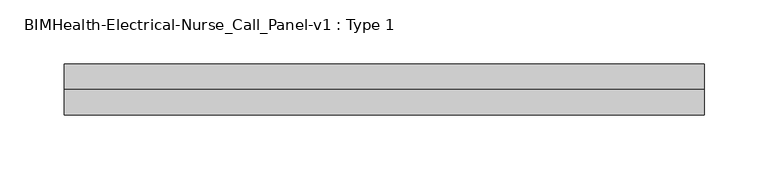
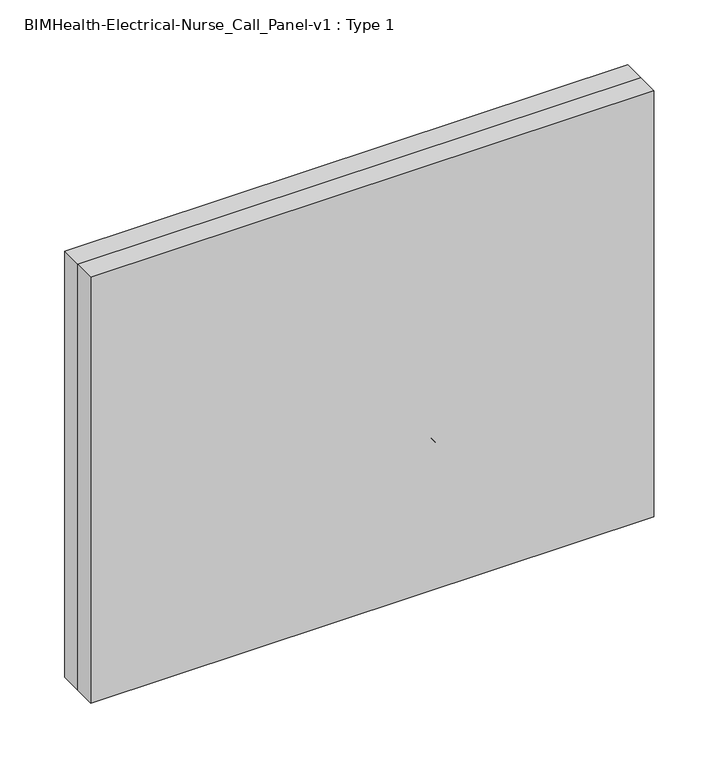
"""IFC4 building model written with IfcOpenShell, lengths in millimetres: proxy geometry, BIMHealth-Electrical-Nurse_Call_Panel-v1 : Type 1."""

from ifc_helpers import new_model, si_unit, point, frame, frame_2d, origin, place, context, project, spatial, polyline, circle_curve, trimmed, segment, composite_curve, outline, extrude, source, transform, mapped, element, save


def bimhealth_electrical_nurse_call_panel_v1_type_1_87daaa80(model_context):
    return source(origin(), model_context, "Body", "SweptSolid", [
        extrude(outline(polyline([(1652.3377083, 282.9611708), (1676.9530929, 282.9611708), (1676.9530929, 279.6679015), (1657.451891, 266.8073246), (1676.9530929, 266.8073246), (1676.9530929, 263.7304015), (1652.3377083, 263.7304015), (1652.3377083, 267.0236708), (1671.8449199, 279.8842477), (1652.3377083, 279.8842477), (1652.3377083, 282.9611708)])), frame((0.0, 105.0, 0.0), z_axis=(0.0, 1.0, 0.0), x_axis=(0.0, 0.0, 1.0)), (0.0, 0.0, 1.0), 5.0),
        extrude(outline(polyline([(1652.3377083, 247.19194), (1655.4446795, 247.19194), (1651.9530929, 252.7448246), (1652.5660737, 255.6384544), (1654.1045352, 257.6336467), (1656.3701602, 258.5501131), (1659.2307372, 258.7304015), (1670.4146314, 258.7304015), (1670.4146314, 255.6534785), (1660.6790545, 255.6534785), (1657.5420352, 255.4671804), (1655.7000881, 254.2502333), (1655.030016, 251.957565), (1655.7151122, 249.3884544), (1657.5810977, 247.6907381), (1661.0095833, 247.19194), (1670.4146314, 247.19194), (1670.4146314, 244.1150169), (1652.3377083, 244.1150169), (1652.3377083, 247.19194)])), frame((0.0, 105.0, 0.0), z_axis=(0.0, 1.0, 0.0), x_axis=(0.0, 0.0, 1.0)), (0.0, 0.0, 1.0), 5.0),
        extrude(outline(polyline([(1652.3377083, 239.8842477), (1670.4146314, 239.8842477), (1670.4146314, 237.19194), (1667.7403526, 237.19194), (1670.2042949, 235.2808823), (1670.7992468, 233.3578054), (1669.8497276, 230.2688631), (1667.0913141, 231.2965073), (1667.7223237, 233.4599689), (1667.1153526, 235.1997525), (1665.4326602, 236.3085265), (1661.8389102, 236.8073246), (1652.3377083, 236.8073246), (1652.3377083, 239.8842477)])), frame((0.0, 105.0, 0.0), z_axis=(0.0, 1.0, 0.0), x_axis=(0.0, 0.0, 1.0)), (0.0, 0.0, 1.0), 5.0),
        extrude(outline(polyline([(1657.7223237, 229.4996323), (1658.1069391, 226.4227092), (1655.8232852, 224.9984304), (1655.030016, 221.7352092), (1655.7571795, 218.59819), (1657.4639102, 217.5765554), (1658.8461218, 218.6041996), (1659.7235256, 221.7712669), (1661.2289343, 226.4046804), (1662.9867468, 228.426916), (1665.4687179, 229.1150169), (1667.7613862, 228.5621323), (1669.5131891, 227.0537189), (1670.4236458, 225.097589), (1670.7992468, 222.4503535), (1670.1952804, 218.7063631), (1668.5606651, 216.3265554), (1665.7992468, 215.2688631), (1665.4146314, 218.3457862), (1667.1123477, 219.5026371), (1667.7223237, 222.2099689), (1667.139391, 225.1546804), (1665.7812179, 226.0380939), (1663.5516506, 221.8734304), (1662.1033333, 217.3572044), (1660.4627083, 215.2598487), (1657.7884295, 214.4996323), (1654.8437179, 215.3920602), (1652.7072997, 217.9671804), (1651.9530929, 221.7772765), (1653.4074199, 227.1438631), (1657.7223237, 229.4996323)])), frame((0.0, 105.0, 0.0), z_axis=(0.0, 1.0, 0.0), x_axis=(0.0, 0.0, 1.0)), (0.0, 0.0, 1.0), 5.0),
        extrude(outline(polyline([(1657.7223237, 198.3818439), (1657.3377083, 195.3650169), (1653.3653526, 198.1865314), (1651.9530929, 203.44194), (1654.389992, 209.8301612), (1661.2259295, 212.19194), (1668.2872276, 209.8061227), (1670.7992468, 203.6162189), (1668.2932372, 197.6035987), (1661.2439583, 195.2688631), (1660.4146314, 209.1150169), (1656.4182372, 207.3451852), (1655.030016, 203.3818439), (1655.6730449, 200.3650169), (1657.7223237, 198.3818439)]), holes=[polyline([(1663.4915545, 209.1150169), (1663.4915545, 198.3457862), (1666.280016, 199.5777573), (1667.7223237, 203.6282381), (1666.5714824, 207.4173006), (1663.4915545, 209.1150169)])]), frame((0.0, 105.0, 0.0), z_axis=(0.0, 1.0, 0.0), x_axis=(0.0, 0.0, 1.0)), (0.0, 0.0, 1.0), 5.0),
        extrude(outline(polyline([(1630.7030929, 265.6534785), (1629.9098237, 262.5765554), (1623.7048958, 266.2243919), (1621.5684776, 272.6666996), (1623.1850641, 279.0699448), (1627.8665545, 282.8259544), (1634.4470833, 284.1150169), (1641.1357852, 282.6576852), (1645.4717227, 278.5140554), (1646.9530929, 272.6005939), (1645.0360256, 266.4377333), (1639.639391, 262.9611708), (1638.9062179, 266.0380939), (1642.6892708, 268.5621323), (1643.8761699, 272.7207862), (1642.5600641, 277.5344881), (1639.0264102, 280.253839), (1634.4530929, 281.0380939), (1629.1526122, 280.1096083), (1625.7661939, 277.2189833), (1624.6454006, 272.97319), (1626.1718429, 268.2646564), (1630.7030929, 265.6534785)])), frame((0.0, 105.0, 0.0), z_axis=(0.0, 1.0, 0.0), x_axis=(0.0, 0.0, 1.0)), (0.0, 0.0, 1.0), 5.0),
        extrude(outline(polyline([(1624.2607852, 247.19194), (1622.1754487, 250.175714), (1621.5684776, 253.4719881), (1623.0288141, 257.9401371), (1626.7607852, 259.4996323), (1629.1946795, 258.91069), (1630.9615064, 257.363214), (1631.9711218, 255.2087669), (1632.4338622, 252.5465073), (1633.4915545, 247.2099689), (1636.4482852, 248.0392958), (1637.3377083, 251.4407381), (1636.7457612, 254.5537189), (1634.6454006, 256.0380939), (1635.030016, 259.1150169), (1638.0348237, 257.7838871), (1639.795641, 255.1035987), (1640.4146314, 251.0441035), (1639.8677564, 247.3151371), (1638.4945593, 245.2087669), (1636.4062179, 244.2652573), (1633.7139102, 244.1150169), (1629.8857852, 244.1150169), (1624.5402324, 243.9587669), (1621.9530929, 243.3457862), (1621.9530929, 246.4227092), (1624.2607852, 247.19194)]), holes=[polyline([(1629.9789343, 247.2009544), (1629.4711218, 252.1558823), (1628.9723237, 254.8031179), (1625.3124679, 255.5062429), (1624.6454006, 252.81694), (1625.3815785, 249.7039592), (1627.1634295, 247.6967477), (1629.9789343, 247.2009544)])]), frame((0.0, 105.0, 0.0), z_axis=(0.0, 1.0, 0.0), x_axis=(0.0, 0.0, 1.0)), (0.0, 0.0, 1.0), 5.0),
        extrude(outline(polyline([(236.8073246, 110.0), (239.8842477, 110.0), (239.8842477, 105.0), (236.8073246, 105.0), (236.8073246, 110.0)])), frame((0.0, 0.0, 1621.9530929), z_axis=(0.0, 0.0, 1.0), x_axis=(1.0, 0.0, 0.0)), (0.0, 0.0, 1.0), 24.6153846),
        extrude(outline(polyline([(229.1150169, 110.0), (232.19194, 110.0), (232.19194, 105.0), (229.1150169, 105.0), (229.1150169, 110.0)])), frame((0.0, 0.0, 1621.9530929), z_axis=(0.0, 0.0, 1.0), x_axis=(1.0, 0.0, 0.0)), (0.0, 0.0, 1.0), 24.6153846),
        extrude(outline(polyline([(1591.5684776, 282.9611708), (1616.1838622, 282.9611708), (1616.1838622, 273.8385746), (1615.9494872, 270.16069), (1614.7986458, 267.1709064), (1612.4188381, 265.2328054), (1609.0624679, 264.4996323), (1603.7439583, 266.4798006), (1601.5684776, 273.6282381), (1601.5684776, 279.8842477), (1591.5684776, 279.8842477), (1591.5684776, 282.9611708)]), holes=[polyline([(1604.6454006, 279.8842477), (1604.6454006, 273.4479496), (1605.7752083, 268.9166996), (1608.9542949, 267.5765554), (1611.5023718, 268.3668198), (1612.8966026, 270.4431419), (1613.1069391, 273.520065), (1613.1069391, 279.8842477), (1604.6454006, 279.8842477)])]), frame((0.0, 105.0, 0.0), z_axis=(0.0, 1.0, 0.0), x_axis=(0.0, 0.0, 1.0)), (0.0, 0.0, 1.0), 5.0),
        extrude(outline(polyline([(1600.6069391, 261.4227092), (1608.0288141, 258.7604496), (1610.030016, 253.3397765), (1607.593117, 247.5254737), (1600.8593429, 245.2688631), (1595.3845833, 246.2664592), (1592.2866266, 249.1721083), (1591.1838622, 253.3397765), (1593.6117468, 259.1901371), (1600.6069391, 261.4227092)]), holes=[polyline([(1600.6129487, 258.3457862), (1595.8443189, 256.9215073), (1594.2607852, 253.3397765), (1595.8533333, 249.770065), (1600.7091026, 248.3457862), (1605.3695593, 249.7790794), (1606.9530929, 253.3397765), (1605.3755689, 256.9215073), (1600.6129487, 258.3457862)])]), frame((0.0, 105.0, 0.0), z_axis=(0.0, 1.0, 0.0), x_axis=(0.0, 0.0, 1.0)), (0.0, 0.0, 1.0), 5.0),
        extrude(outline(polyline([(238.7304015, 110.0), (241.8073246, 110.0), (241.8073246, 105.0), (238.7304015, 105.0), (238.7304015, 110.0)])), frame((0.0, 0.0, 1613.1069391), z_axis=(0.0, 0.0, 1.0), x_axis=(1.0, 0.0, 0.0)), (0.0, 0.0, 1.0), 3.0769231),
        extrude(outline(polyline([(238.7304015, 110.0), (241.8073246, 110.0), (241.8073246, 105.0), (238.7304015, 105.0), (238.7304015, 110.0)])), frame((0.0, 0.0, 1591.5684776), z_axis=(0.0, 0.0, 1.0), x_axis=(1.0, 0.0, 0.0)), (0.0, 0.0, 1.0), 18.0769231),
        extrude(outline(polyline([(1591.5684776, 234.1150169), (1609.6454006, 234.1150169), (1609.6454006, 231.0380939), (1607.1213622, 231.0380939), (1610.030016, 225.47319), (1609.4440785, 222.567541), (1607.905617, 220.5843679), (1605.6429968, 219.6618919), (1602.6682372, 219.4996323), (1591.5684776, 219.4996323), (1591.5684776, 222.5765554), (1602.2535737, 222.5765554), (1604.9759295, 222.9311227), (1606.4152324, 224.1841275), (1606.9530929, 226.2965073), (1605.7451602, 229.6348487), (1601.1598237, 231.0380939), (1591.5684776, 231.0380939), (1591.5684776, 234.1150169)])), frame((0.0, 105.0, 0.0), z_axis=(0.0, 1.0, 0.0), x_axis=(0.0, 0.0, 1.0)), (0.0, 0.0, 1.0), 5.0),
        extrude(outline(polyline([(1594.5822997, 210.1877333), (1591.4783333, 208.3457862), (1591.1838622, 210.6474689), (1591.6946795, 213.2255939), (1593.0348237, 214.5116515), (1596.5264102, 214.8842477), (1606.5684776, 214.8842477), (1606.5684776, 217.19194), (1609.6454006, 217.19194), (1609.6454006, 214.8842477), (1614.0384295, 214.8842477), (1615.8473237, 211.8073246), (1609.6454006, 211.8073246), (1609.6454006, 208.7304015), (1606.5684776, 208.7304015), (1606.5684776, 211.8073246), (1596.6165545, 211.8073246), (1594.5822997, 210.1877333)])), frame((0.0, 105.0, 0.0), z_axis=(0.0, 1.0, 0.0), x_axis=(0.0, 0.0, 1.0)), (0.0, 0.0, 1.0), 5.0),
        extrude(outline(polyline([(266.8290754, 105.0), (240.6709246, 105.0), (240.6709246, 110.0), (266.8290754, 110.0), (266.8290754, 105.0)])), frame((0.0, 0.0, 1846.4197312), z_axis=(0.0, 0.0, 1.0), x_axis=(1.0, 0.0, 0.0)), (0.0, 0.0, 1.0), 2.0401344),
        extrude(outline(polyline([(298.7040754, 105.0), (272.5459246, 105.0), (272.5459246, 110.0), (298.7040754, 110.0), (298.7040754, 105.0)])), frame((0.0, 0.0, 1846.4197312), z_axis=(0.0, 0.0, 1.0), x_axis=(1.0, 0.0, 0.0)), (0.0, 0.0, 1.0), 2.0401344),
        extrude(outline(polyline([(248.0331509, 105.0), (221.875, 105.0), (221.875, 110.0), (248.0331509, 110.0), (248.0331509, 105.0)])), frame((0.0, 0.0, 1860.4598656), z_axis=(0.0, 0.0, 1.0), x_axis=(1.0, 0.0, 0.0)), (0.0, 0.0, 1.0), 2.0401344),
        extrude(outline(polyline([(279.9081509, 105.0), (253.75, 105.0), (253.75, 110.0), (279.9081509, 110.0), (279.9081509, 105.0)])), frame((0.0, 0.0, 1860.4598656), z_axis=(0.0, 0.0, 1.0), x_axis=(1.0, 0.0, 0.0)), (0.0, 0.0, 1.0), 2.0401344),
        extrude(outline(polyline([(311.7831509, 105.0), (285.625, 105.0), (285.625, 110.0), (311.7831509, 110.0), (311.7831509, 105.0)])), frame((0.0, 0.0, 1860.4598656), z_axis=(0.0, 0.0, 1.0), x_axis=(1.0, 0.0, 0.0)), (0.0, 0.0, 1.0), 2.0401344),
        extrude(outline(polyline([(266.8290754, 105.0), (240.6709246, 105.0), (240.6709246, 110.0), (266.8290754, 110.0), (266.8290754, 105.0)])), frame((0.0, 0.0, 1874.5), z_axis=(0.0, 0.0, 1.0), x_axis=(1.0, 0.0, 0.0)), (0.0, 0.0, 1.0), 2.0401344),
        extrude(outline(polyline([(298.7040754, 105.0), (272.5459246, 105.0), (272.5459246, 110.0), (298.7040754, 110.0), (298.7040754, 105.0)])), frame((0.0, 0.0, 1874.5), z_axis=(0.0, 0.0, 1.0), x_axis=(1.0, 0.0, 0.0)), (0.0, 0.0, 1.0), 2.0401344),
        extrude(outline(polyline([(197.5, 105.0), (167.8604921, 105.0), (167.8604921, 110.0), (197.5, 110.0), (197.5, 105.0)])), frame((0.0, 0.0, 1850.0), z_axis=(0.0, 0.0, 1.0), x_axis=(1.0, 0.0, 0.0)), (0.0, 0.0, 1.0), 25.0),
        extrude(outline(composite_curve([segment(trimmed(circle_curve(frame_2d((1612.5, 50.0)), 5.0), [point((1612.5, 45.0))], [point((1612.5, 55.0))], False, "CARTESIAN"), True, "CONTINUOUS"), segment(trimmed(circle_curve(frame_2d((1612.5, 50.0)), 5.0), [point((1612.5, 55.0))], [point((1612.5, 45.0))], False, "CARTESIAN"), True, "CONTINUOUS")], self_intersect=False)), frame((0.0, 105.0, 0.0), z_axis=(0.0, 1.0, 0.0), x_axis=(0.0, 0.0, 1.0)), (0.0, 0.0, 1.0), 2.5),
        extrude(outline(composite_curve([segment(trimmed(circle_curve(frame_2d((1642.5, 50.0)), 5.0), [point((1642.5, 45.0))], [point((1642.5, 55.0))], False, "CARTESIAN"), True, "CONTINUOUS"), segment(trimmed(circle_curve(frame_2d((1642.5, 50.0)), 5.0), [point((1642.5, 55.0))], [point((1642.5, 45.0))], False, "CARTESIAN"), True, "CONTINUOUS")], self_intersect=False)), frame((0.0, 105.0, 0.0), z_axis=(0.0, 1.0, 0.0), x_axis=(0.0, 0.0, 1.0)), (0.0, 0.0, 1.0), 2.5),
        extrude(outline(composite_curve([segment(trimmed(circle_curve(frame_2d((1672.5, 50.0)), 5.0), [point((1672.5, 45.0))], [point((1672.5, 55.0))], False, "CARTESIAN"), True, "CONTINUOUS"), segment(trimmed(circle_curve(frame_2d((1672.5, 50.0)), 5.0), [point((1672.5, 55.0))], [point((1672.5, 45.0))], False, "CARTESIAN"), True, "CONTINUOUS")], self_intersect=False)), frame((0.0, 105.0, 0.0), z_axis=(0.0, 1.0, 0.0), x_axis=(0.0, 0.0, 1.0)), (0.0, 0.0, 1.0), 2.5),
        extrude(outline(composite_curve([segment(trimmed(circle_curve(frame_2d((1702.5, 50.0)), 5.0), [point((1702.5, 45.0))], [point((1702.5, 55.0))], False, "CARTESIAN"), True, "CONTINUOUS"), segment(trimmed(circle_curve(frame_2d((1702.5, 50.0)), 5.0), [point((1702.5, 55.0))], [point((1702.5, 45.0))], False, "CARTESIAN"), True, "CONTINUOUS")], self_intersect=False)), frame((0.0, 105.0, 0.0), z_axis=(0.0, 1.0, 0.0), x_axis=(0.0, 0.0, 1.0)), (0.0, 0.0, 1.0), 2.5),
        extrude(outline(composite_curve([segment(trimmed(circle_curve(frame_2d((1732.5, 50.0)), 5.0), [point((1732.5, 45.0))], [point((1732.5, 55.0))], False, "CARTESIAN"), True, "CONTINUOUS"), segment(trimmed(circle_curve(frame_2d((1732.5, 50.0)), 5.0), [point((1732.5, 55.0))], [point((1732.5, 45.0))], False, "CARTESIAN"), True, "CONTINUOUS")], self_intersect=False)), frame((0.0, 105.0, 0.0), z_axis=(0.0, 1.0, 0.0), x_axis=(0.0, 0.0, 1.0)), (0.0, 0.0, 1.0), 2.5),
        extrude(outline(composite_curve([segment(trimmed(circle_curve(frame_2d((1762.5, 50.0)), 5.0), [point((1762.5, 45.0))], [point((1762.5, 55.0))], False, "CARTESIAN"), True, "CONTINUOUS"), segment(trimmed(circle_curve(frame_2d((1762.5, 50.0)), 5.0), [point((1762.5, 55.0))], [point((1762.5, 45.0))], False, "CARTESIAN"), True, "CONTINUOUS")], self_intersect=False)), frame((0.0, 105.0, 0.0), z_axis=(0.0, 1.0, 0.0), x_axis=(0.0, 0.0, 1.0)), (0.0, 0.0, 1.0), 2.5),
        extrude(outline(composite_curve([segment(trimmed(circle_curve(frame_2d((1792.5, 50.0)), 5.0), [point((1792.5, 45.0))], [point((1792.5, 55.0))], False, "CARTESIAN"), True, "CONTINUOUS"), segment(trimmed(circle_curve(frame_2d((1792.5, 50.0)), 5.0), [point((1792.5, 55.0))], [point((1792.5, 45.0))], False, "CARTESIAN"), True, "CONTINUOUS")], self_intersect=False)), frame((0.0, 105.0, 0.0), z_axis=(0.0, 1.0, 0.0), x_axis=(0.0, 0.0, 1.0)), (0.0, 0.0, 1.0), 2.5),
        extrude(outline(composite_curve([segment(trimmed(circle_curve(frame_2d((1822.5, 50.0)), 5.0), [point((1822.5, 45.0))], [point((1822.5, 55.0))], False, "CARTESIAN"), True, "CONTINUOUS"), segment(trimmed(circle_curve(frame_2d((1822.5, 50.0)), 5.0), [point((1822.5, 55.0))], [point((1822.5, 45.0))], False, "CARTESIAN"), True, "CONTINUOUS")], self_intersect=False)), frame((0.0, 105.0, 0.0), z_axis=(0.0, 1.0, 0.0), x_axis=(0.0, 0.0, 1.0)), (0.0, 0.0, 1.0), 2.5),
        extrude(outline(composite_curve([segment(trimmed(circle_curve(frame_2d((1852.5, 50.0)), 5.0), [point((1852.5, 45.0))], [point((1852.5, 55.0))], False, "CARTESIAN"), True, "CONTINUOUS"), segment(trimmed(circle_curve(frame_2d((1852.5, 50.0)), 5.0), [point((1852.5, 55.0))], [point((1852.5, 45.0))], False, "CARTESIAN"), True, "CONTINUOUS")], self_intersect=False)), frame((0.0, 105.0, 0.0), z_axis=(0.0, 1.0, 0.0), x_axis=(0.0, 0.0, 1.0)), (0.0, 0.0, 1.0), 2.5),
        extrude(outline(composite_curve([segment(trimmed(circle_curve(frame_2d((1612.5, -30.0)), 5.0), [point((1612.5, -25.0))], [point((1612.5, -35.0))], False, "CARTESIAN"), True, "CONTINUOUS"), segment(trimmed(circle_curve(frame_2d((1612.5, -30.0)), 5.0), [point((1612.5, -35.0))], [point((1612.5, -25.0))], False, "CARTESIAN"), True, "CONTINUOUS")], self_intersect=False)), frame((0.0, 105.0, 0.0), z_axis=(0.0, 1.0, 0.0), x_axis=(0.0, 0.0, 1.0)), (0.0, 0.0, 1.0), 2.5),
        extrude(outline(composite_curve([segment(trimmed(circle_curve(frame_2d((1642.5, -30.0)), 5.0), [point((1642.5, -25.0))], [point((1642.5, -35.0))], False, "CARTESIAN"), True, "CONTINUOUS"), segment(trimmed(circle_curve(frame_2d((1642.5, -30.0)), 5.0), [point((1642.5, -35.0))], [point((1642.5, -25.0))], False, "CARTESIAN"), True, "CONTINUOUS")], self_intersect=False)), frame((0.0, 105.0, 0.0), z_axis=(0.0, 1.0, 0.0), x_axis=(0.0, 0.0, 1.0)), (0.0, 0.0, 1.0), 2.5),
        extrude(outline(composite_curve([segment(trimmed(circle_curve(frame_2d((1672.5, -30.0)), 5.0), [point((1672.5, -25.0))], [point((1672.5, -35.0))], False, "CARTESIAN"), True, "CONTINUOUS"), segment(trimmed(circle_curve(frame_2d((1672.5, -30.0)), 5.0), [point((1672.5, -35.0))], [point((1672.5, -25.0))], False, "CARTESIAN"), True, "CONTINUOUS")], self_intersect=False)), frame((0.0, 105.0, 0.0), z_axis=(0.0, 1.0, 0.0), x_axis=(0.0, 0.0, 1.0)), (0.0, 0.0, 1.0), 2.5),
        extrude(outline(composite_curve([segment(trimmed(circle_curve(frame_2d((1702.5, -30.0)), 5.0), [point((1702.5, -25.0))], [point((1702.5, -35.0))], False, "CARTESIAN"), True, "CONTINUOUS"), segment(trimmed(circle_curve(frame_2d((1702.5, -30.0)), 5.0), [point((1702.5, -35.0))], [point((1702.5, -25.0))], False, "CARTESIAN"), True, "CONTINUOUS")], self_intersect=False)), frame((0.0, 105.0, 0.0), z_axis=(0.0, 1.0, 0.0), x_axis=(0.0, 0.0, 1.0)), (0.0, 0.0, 1.0), 2.5),
        extrude(outline(composite_curve([segment(trimmed(circle_curve(frame_2d((1732.5, -30.0)), 5.0), [point((1732.5, -25.0))], [point((1732.5, -35.0))], False, "CARTESIAN"), True, "CONTINUOUS"), segment(trimmed(circle_curve(frame_2d((1732.5, -30.0)), 5.0), [point((1732.5, -35.0))], [point((1732.5, -25.0))], False, "CARTESIAN"), True, "CONTINUOUS")], self_intersect=False)), frame((0.0, 105.0, 0.0), z_axis=(0.0, 1.0, 0.0), x_axis=(0.0, 0.0, 1.0)), (0.0, 0.0, 1.0), 2.5),
        extrude(outline(composite_curve([segment(trimmed(circle_curve(frame_2d((1762.5, -30.0)), 5.0), [point((1762.5, -25.0))], [point((1762.5, -35.0))], False, "CARTESIAN"), True, "CONTINUOUS"), segment(trimmed(circle_curve(frame_2d((1762.5, -30.0)), 5.0), [point((1762.5, -35.0))], [point((1762.5, -25.0))], False, "CARTESIAN"), True, "CONTINUOUS")], self_intersect=False)), frame((0.0, 105.0, 0.0), z_axis=(0.0, 1.0, 0.0), x_axis=(0.0, 0.0, 1.0)), (0.0, 0.0, 1.0), 2.5),
        extrude(outline(composite_curve([segment(trimmed(circle_curve(frame_2d((1792.5, -30.0)), 5.0), [point((1792.5, -25.0))], [point((1792.5, -35.0))], False, "CARTESIAN"), True, "CONTINUOUS"), segment(trimmed(circle_curve(frame_2d((1792.5, -30.0)), 5.0), [point((1792.5, -35.0))], [point((1792.5, -25.0))], False, "CARTESIAN"), True, "CONTINUOUS")], self_intersect=False)), frame((0.0, 105.0, 0.0), z_axis=(0.0, 1.0, 0.0), x_axis=(0.0, 0.0, 1.0)), (0.0, 0.0, 1.0), 2.5),
        extrude(outline(composite_curve([segment(trimmed(circle_curve(frame_2d((1822.5, -30.0)), 5.0), [point((1822.5, -25.0))], [point((1822.5, -35.0))], False, "CARTESIAN"), True, "CONTINUOUS"), segment(trimmed(circle_curve(frame_2d((1822.5, -30.0)), 5.0), [point((1822.5, -35.0))], [point((1822.5, -25.0))], False, "CARTESIAN"), True, "CONTINUOUS")], self_intersect=False)), frame((0.0, 105.0, 0.0), z_axis=(0.0, 1.0, 0.0), x_axis=(0.0, 0.0, 1.0)), (0.0, 0.0, 1.0), 2.5),
        extrude(outline(composite_curve([segment(trimmed(circle_curve(frame_2d((1852.5, -30.0)), 5.0), [point((1852.5, -25.0))], [point((1852.5, -35.0))], False, "CARTESIAN"), True, "CONTINUOUS"), segment(trimmed(circle_curve(frame_2d((1852.5, -30.0)), 5.0), [point((1852.5, -35.0))], [point((1852.5, -25.0))], False, "CARTESIAN"), True, "CONTINUOUS")], self_intersect=False)), frame((0.0, 105.0, 0.0), z_axis=(0.0, 1.0, 0.0), x_axis=(0.0, 0.0, 1.0)), (0.0, 0.0, 1.0), 2.5),
        extrude(outline(polyline([(105.0, 105.0), (65.0, 105.0), (65.0, 110.0), (105.0, 110.0), (105.0, 105.0)])), frame((0.0, 0.0, 1605.0), z_axis=(0.0, 0.0, 1.0), x_axis=(1.0, 0.0, 0.0)), (0.0, 0.0, 1.0), 15.0),
        extrude(outline(polyline([(105.0, 105.0), (65.0, 105.0), (65.0, 110.0), (105.0, 110.0), (105.0, 105.0)])), frame((0.0, 0.0, 1635.0), z_axis=(0.0, 0.0, 1.0), x_axis=(1.0, 0.0, 0.0)), (0.0, 0.0, 1.0), 15.0),
        extrude(outline(polyline([(105.0, 105.0), (65.0, 105.0), (65.0, 110.0), (105.0, 110.0), (105.0, 105.0)])), frame((0.0, 0.0, 1665.0), z_axis=(0.0, 0.0, 1.0), x_axis=(1.0, 0.0, 0.0)), (0.0, 0.0, 1.0), 15.0),
        extrude(outline(polyline([(105.0, 105.0), (65.0, 105.0), (65.0, 110.0), (105.0, 110.0), (105.0, 105.0)])), frame((0.0, 0.0, 1695.0), z_axis=(0.0, 0.0, 1.0), x_axis=(1.0, 0.0, 0.0)), (0.0, 0.0, 1.0), 15.0),
        extrude(outline(polyline([(105.0, 105.0), (65.0, 105.0), (65.0, 110.0), (105.0, 110.0), (105.0, 105.0)])), frame((0.0, 0.0, 1725.0), z_axis=(0.0, 0.0, 1.0), x_axis=(1.0, 0.0, 0.0)), (0.0, 0.0, 1.0), 15.0),
        extrude(outline(polyline([(105.0, 105.0), (65.0, 105.0), (65.0, 110.0), (105.0, 110.0), (105.0, 105.0)])), frame((0.0, 0.0, 1755.0), z_axis=(0.0, 0.0, 1.0), x_axis=(1.0, 0.0, 0.0)), (0.0, 0.0, 1.0), 15.0),
        extrude(outline(polyline([(105.0, 105.0), (65.0, 105.0), (65.0, 110.0), (105.0, 110.0), (105.0, 105.0)])), frame((0.0, 0.0, 1785.0), z_axis=(0.0, 0.0, 1.0), x_axis=(1.0, 0.0, 0.0)), (0.0, 0.0, 1.0), 15.0),
        extrude(outline(polyline([(105.0, 105.0), (65.0, 105.0), (65.0, 110.0), (105.0, 110.0), (105.0, 105.0)])), frame((0.0, 0.0, 1815.0), z_axis=(0.0, 0.0, 1.0), x_axis=(1.0, 0.0, 0.0)), (0.0, 0.0, 1.0), 15.0),
        extrude(outline(polyline([(105.0, 105.0), (65.0, 105.0), (65.0, 110.0), (105.0, 110.0), (105.0, 105.0)])), frame((0.0, 0.0, 1845.0), z_axis=(0.0, 0.0, 1.0), x_axis=(1.0, 0.0, 0.0)), (0.0, 0.0, 1.0), 15.0),
        extrude(outline(polyline([(-45.0, 105.0), (-85.0, 105.0), (-85.0, 110.0), (-45.0, 110.0), (-45.0, 105.0)])), frame((0.0, 0.0, 1605.0), z_axis=(0.0, 0.0, 1.0), x_axis=(1.0, 0.0, 0.0)), (0.0, 0.0, 1.0), 15.0),
        extrude(outline(polyline([(-45.0, 105.0), (-85.0, 105.0), (-85.0, 110.0), (-45.0, 110.0), (-45.0, 105.0)])), frame((0.0, 0.0, 1635.0), z_axis=(0.0, 0.0, 1.0), x_axis=(1.0, 0.0, 0.0)), (0.0, 0.0, 1.0), 15.0),
        extrude(outline(polyline([(-45.0, 105.0), (-85.0, 105.0), (-85.0, 110.0), (-45.0, 110.0), (-45.0, 105.0)])), frame((0.0, 0.0, 1665.0), z_axis=(0.0, 0.0, 1.0), x_axis=(1.0, 0.0, 0.0)), (0.0, 0.0, 1.0), 15.0),
        extrude(outline(polyline([(-45.0, 105.0), (-85.0, 105.0), (-85.0, 110.0), (-45.0, 110.0), (-45.0, 105.0)])), frame((0.0, 0.0, 1695.0), z_axis=(0.0, 0.0, 1.0), x_axis=(1.0, 0.0, 0.0)), (0.0, 0.0, 1.0), 15.0),
        extrude(outline(polyline([(-45.0, 105.0), (-85.0, 105.0), (-85.0, 110.0), (-45.0, 110.0), (-45.0, 105.0)])), frame((0.0, 0.0, 1725.0), z_axis=(0.0, 0.0, 1.0), x_axis=(1.0, 0.0, 0.0)), (0.0, 0.0, 1.0), 15.0),
        extrude(outline(polyline([(-45.0, 105.0), (-85.0, 105.0), (-85.0, 110.0), (-45.0, 110.0), (-45.0, 105.0)])), frame((0.0, 0.0, 1755.0), z_axis=(0.0, 0.0, 1.0), x_axis=(1.0, 0.0, 0.0)), (0.0, 0.0, 1.0), 15.0),
        extrude(outline(polyline([(-45.0, 105.0), (-85.0, 105.0), (-85.0, 110.0), (-45.0, 110.0), (-45.0, 105.0)])), frame((0.0, 0.0, 1785.0), z_axis=(0.0, 0.0, 1.0), x_axis=(1.0, 0.0, 0.0)), (0.0, 0.0, 1.0), 15.0),
        extrude(outline(polyline([(-45.0, 105.0), (-85.0, 105.0), (-85.0, 110.0), (-45.0, 110.0), (-45.0, 105.0)])), frame((0.0, 0.0, 1815.0), z_axis=(0.0, 0.0, 1.0), x_axis=(1.0, 0.0, 0.0)), (0.0, 0.0, 1.0), 15.0),
        extrude(outline(polyline([(-45.0, 105.0), (-85.0, 105.0), (-85.0, 110.0), (-45.0, 110.0), (-45.0, 105.0)])), frame((0.0, 0.0, 1845.0), z_axis=(0.0, 0.0, 1.0), x_axis=(1.0, 0.0, 0.0)), (0.0, 0.0, 1.0), 15.0),
        extrude(outline(polyline([(125.0, 95.0), (-105.0, 95.0), (-105.0, 105.0), (125.0, 105.0), (125.0, 95.0)])), frame((0.0, 0.0, 1560.0), z_axis=(0.0, 0.0, 1.0), x_axis=(1.0, 0.0, 0.0)), (0.0, 0.0, 1.0), 360.0),
        extrude(outline(polyline([(375.0, 95.0), (375.0, 75.0), (-125.0, 75.0), (-125.0, 95.0), (375.0, 95.0)])), frame((0.0, 0.0, 1540.0), z_axis=(0.0, 0.0, 1.0), x_axis=(1.0, 0.0, 0.0)), (0.0, 0.0, 1.0), 400.0),
        extrude(outline(polyline([(1540.0, -125.0), (1540.0, 375.0), (1940.0, 375.0), (1940.0, -125.0), (1540.0, -125.0)]), holes=[polyline([(1920.0, 355.0), (1560.0, 355.0), (1560.0, -105.0), (1920.0, -105.0), (1920.0, 355.0)])]), frame((0.0, 95.0, 0.0), z_axis=(0.0, 1.0, 0.0), x_axis=(0.0, 0.0, 1.0)), (0.0, 0.0, 1.0), 20.0),
    ])


if __name__ == "__main__":
    model = new_model("IFC4")
    model_context = context("Model", 3, world=origin())
    ifc_project = project(units=[si_unit("LENGTHUNIT", "METRE", prefix="MILLI")], contexts=[model_context])
    site = spatial("IfcSite", under=ifc_project)
    building = spatial("IfcBuilding", under=site)
    placement = place(None, origin())
    bimhealth_electrical_nurse_call_panel_v1_type_1_shape = bimhealth_electrical_nurse_call_panel_v1_type_1_87daaa80(model_context)
    element("IfcBuildingElementProxy", 1, Name="BIMHealth-Electrical-Nurse_Call_Panel-v1 : Type 1", ObjectType="BIMHealth-Electrical-Nurse_Call_Panel-v1 : Type 1", at=placement, inside=building, context=model_context, shape_type="MappedRepresentation", body=[
        mapped(bimhealth_electrical_nurse_call_panel_v1_type_1_shape, transform((0.0, 0.0, 0.0), x_axis=(1.0, 0.0, 0.0), y_axis=(0.0, 1.0, 0.0), z_axis=(0.0, 0.0, 1.0))),
    ])
    save(model, "model.ifc")
